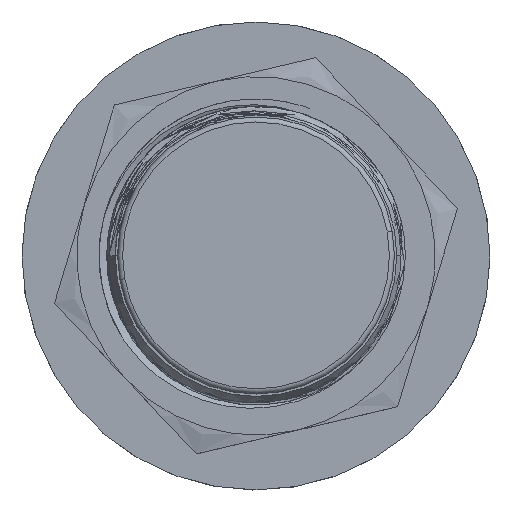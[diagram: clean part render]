
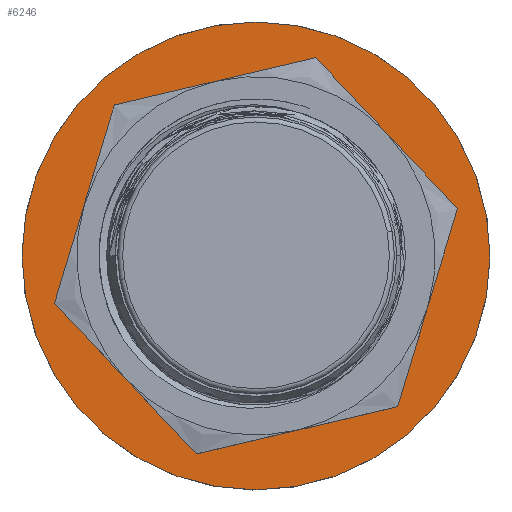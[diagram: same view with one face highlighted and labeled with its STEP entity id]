
A CAD part, top view. The second image highlights one B-rep face of the part: STEP entity #6246.
In plain terms, the highlighted planar face has unit normal (0, 0, 1).
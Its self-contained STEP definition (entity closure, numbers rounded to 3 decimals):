
#175 = AXIS2_PLACEMENT_3D ( 'NONE', #3071, #3017, #9774 ) ;
#482 = CARTESIAN_POINT ( 'NONE',  ( 0., 0., 1. ) ) ;
#565 = CARTESIAN_POINT ( 'NONE',  ( 0., 0., 1. ) ) ;
#920 = DIRECTION ( 'NONE',  ( 0., 0., 1. ) ) ;
#980 = CIRCLE ( 'NONE', #9309, 23.5 ) ;
#1063 = CARTESIAN_POINT ( 'NONE',  ( 23.5, 0., 1. ) ) ;
#1651 = FACE_OUTER_BOUND ( 'NONE', #5822, .T. ) ;
#1703 = FACE_BOUND ( 'NONE', #4933, .T. ) ;
#1746 = EDGE_CURVE ( 'NONE', #4806, #8025, #980, .T. ) ;
#2088 = DIRECTION ( 'NONE',  ( 0., 0., 1. ) ) ;
#2262 = CIRCLE ( 'NONE', #175, 17.5 ) ;
#3017 = DIRECTION ( 'NONE',  ( 0., 0., 1. ) ) ;
#3071 = CARTESIAN_POINT ( 'NONE',  ( 0., 0., 1. ) ) ;
#3114 = ORIENTED_EDGE ( 'NONE', *, *, #3594, .F. ) ;
#3384 = PLANE ( 'NONE',  #6184 ) ;
#3594 = EDGE_CURVE ( 'NONE', #5196, #8839, #5850, .T. ) ;
#3754 = DIRECTION ( 'NONE',  ( 1., 0., 0. ) ) ;
#3951 = DIRECTION ( 'NONE',  ( 1., 0., 0. ) ) ;
#4096 = DIRECTION ( 'NONE',  ( 1., 0., 0. ) ) ;
#4655 = CARTESIAN_POINT ( 'NONE',  ( 0., 0., 1. ) ) ;
#4806 = VERTEX_POINT ( 'NONE', #1063 ) ;
#4933 = EDGE_LOOP ( 'NONE', ( #3114, #7207 ) ) ;
#5196 = VERTEX_POINT ( 'NONE', #6124 ) ;
#5309 = CARTESIAN_POINT ( 'NONE',  ( 17.5, 0., 1. ) ) ;
#5822 = EDGE_LOOP ( 'NONE', ( #7628, #8742 ) ) ;
#5850 = CIRCLE ( 'NONE', #8834, 17.5 ) ;
#6124 = CARTESIAN_POINT ( 'NONE',  ( -17.5, 0., 1. ) ) ;
#6184 = AXIS2_PLACEMENT_3D ( 'NONE', #6714, #920, #4096 ) ;
#6246 = ADVANCED_FACE ( 'NONE', ( #1651, #1703 ), #3384, .T. ) ;
#6714 = CARTESIAN_POINT ( 'NONE',  ( 0., 0., 1. ) ) ;
#7207 = ORIENTED_EDGE ( 'NONE', *, *, #8978, .F. ) ;
#7221 = AXIS2_PLACEMENT_3D ( 'NONE', #482, #2088, #3754 ) ;
#7628 = ORIENTED_EDGE ( 'NONE', *, *, #8538, .T. ) ;
#7971 = CARTESIAN_POINT ( 'NONE',  ( -23.5, 0., 1. ) ) ;
#8025 = VERTEX_POINT ( 'NONE', #7971 ) ;
#8538 = EDGE_CURVE ( 'NONE', #8025, #4806, #9516, .T. ) ;
#8742 = ORIENTED_EDGE ( 'NONE', *, *, #1746, .T. ) ;
#8834 = AXIS2_PLACEMENT_3D ( 'NONE', #565, #10529, #3951 ) ;
#8839 = VERTEX_POINT ( 'NONE', #5309 ) ;
#8870 = DIRECTION ( 'NONE',  ( 1., 0., 0. ) ) ;
#8923 = DIRECTION ( 'NONE',  ( 0., 0., 1. ) ) ;
#8978 = EDGE_CURVE ( 'NONE', #8839, #5196, #2262, .T. ) ;
#9309 = AXIS2_PLACEMENT_3D ( 'NONE', #4655, #8923, #8870 ) ;
#9516 = CIRCLE ( 'NONE', #7221, 23.5 ) ;
#9774 = DIRECTION ( 'NONE',  ( 1., 0., 0. ) ) ;
#10529 = DIRECTION ( 'NONE',  ( 0., 0., 1. ) ) ;
